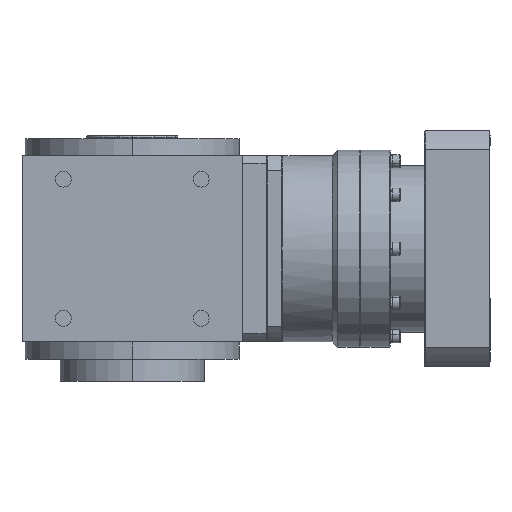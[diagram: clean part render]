
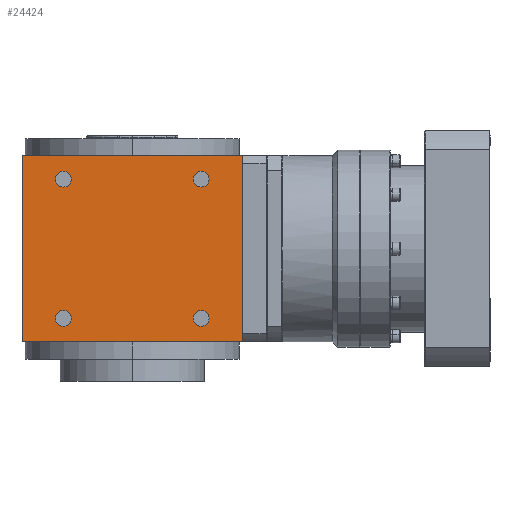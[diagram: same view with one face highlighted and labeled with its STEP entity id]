
A CAD part, left-side view. The second image highlights one B-rep face of the part: STEP entity #24424.
In plain terms, the highlighted planar face has unit normal (-1, 0, 0).
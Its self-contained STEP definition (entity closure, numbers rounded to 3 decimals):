
#67 = CARTESIAN_POINT ( 'NONE',  ( -84., 0., 71. ) ) ;
#198 = VERTEX_POINT ( 'NONE', #2103 ) ;
#588 = VERTEX_POINT ( 'NONE', #18782 ) ;
#615 = VECTOR ( 'NONE', #28640, 1000. ) ;
#651 = EDGE_CURVE ( 'NONE', #21203, #588, #8654, .T. ) ;
#945 = DIRECTION ( 'NONE',  ( 0., -1., 0. ) ) ;
#1089 = EDGE_LOOP ( 'NONE', ( #25535, #12055, #31687, #20256 ) ) ;
#1163 = FACE_BOUND ( 'NONE', #6752, .T. ) ;
#1295 = VERTEX_POINT ( 'NONE', #18134 ) ;
#1450 = EDGE_CURVE ( 'NONE', #588, #21203, #6291, .T. ) ;
#1514 = DIRECTION ( 'NONE',  ( 1., 0., 0. ) ) ;
#1690 = LINE ( 'NONE', #27966, #35816 ) ;
#2103 = CARTESIAN_POINT ( 'NONE',  ( -84., 58.5, -53. ) ) ;
#2819 = CARTESIAN_POINT ( 'NONE',  ( -84., 52.5, -53. ) ) ;
#3625 = FACE_BOUND ( 'NONE', #24114, .T. ) ;
#3656 = EDGE_CURVE ( 'NONE', #22876, #7491, #9346, .T. ) ;
#3704 = ORIENTED_EDGE ( 'NONE', *, *, #35686, .T. ) ;
#4327 = EDGE_LOOP ( 'NONE', ( #28812, #9390 ) ) ;
#5131 = EDGE_CURVE ( 'NONE', #5161, #36134, #1690, .T. ) ;
#5161 = VERTEX_POINT ( 'NONE', #18984 ) ;
#5561 = VERTEX_POINT ( 'NONE', #16308 ) ;
#6291 = CIRCLE ( 'NONE', #21905, 6. ) ;
#6300 = EDGE_LOOP ( 'NONE', ( #28891, #15328 ) ) ;
#6622 = DIRECTION ( 'NONE',  ( -1., 0., 0. ) ) ;
#6734 = EDGE_CURVE ( 'NONE', #5561, #1295, #20444, .T. ) ;
#6752 = EDGE_LOOP ( 'NONE', ( #15587, #32223 ) ) ;
#7491 = VERTEX_POINT ( 'NONE', #28987 ) ;
#7595 = DIRECTION ( 'NONE',  ( 1., 0., 0. ) ) ;
#8370 = LINE ( 'NONE', #11367, #615 ) ;
#8654 = CIRCLE ( 'NONE', #11638, 6. ) ;
#8850 = DIRECTION ( 'NONE',  ( 0., 0., 1. ) ) ;
#9052 = CARTESIAN_POINT ( 'NONE',  ( -84., 46.5, -53. ) ) ;
#9346 = CIRCLE ( 'NONE', #12344, 6. ) ;
#9390 = ORIENTED_EDGE ( 'NONE', *, *, #1450, .T. ) ;
#10054 = VERTEX_POINT ( 'NONE', #9052 ) ;
#10170 = CARTESIAN_POINT ( 'NONE',  ( -84., 52.5, 53. ) ) ;
#10173 = VERTEX_POINT ( 'NONE', #30053 ) ;
#10289 = CARTESIAN_POINT ( 'NONE',  ( -84., 52.5, 53. ) ) ;
#10685 = DIRECTION ( 'NONE',  ( 0., -1., 0. ) ) ;
#10765 = CIRCLE ( 'NONE', #16191, 6. ) ;
#11126 = CARTESIAN_POINT ( 'NONE',  ( -84., -84., -71. ) ) ;
#11367 = CARTESIAN_POINT ( 'NONE',  ( -84., 84., -71. ) ) ;
#11638 = AXIS2_PLACEMENT_3D ( 'NONE', #36394, #24226, #10685 ) ;
#12055 = ORIENTED_EDGE ( 'NONE', *, *, #12533, .F. ) ;
#12344 = AXIS2_PLACEMENT_3D ( 'NONE', #15817, #1514, #945 ) ;
#12533 = EDGE_CURVE ( 'NONE', #25340, #10173, #19969, .T. ) ;
#12559 = AXIS2_PLACEMENT_3D ( 'NONE', #10289, #33375, #27203 ) ;
#12618 = FACE_OUTER_BOUND ( 'NONE', #1089, .T. ) ;
#15106 = FACE_BOUND ( 'NONE', #4327, .T. ) ;
#15328 = ORIENTED_EDGE ( 'NONE', *, *, #3656, .T. ) ;
#15587 = ORIENTED_EDGE ( 'NONE', *, *, #22755, .T. ) ;
#15817 = CARTESIAN_POINT ( 'NONE',  ( -84., -52.5, 53. ) ) ;
#16028 = DIRECTION ( 'NONE',  ( 0., -1., 0. ) ) ;
#16032 = CARTESIAN_POINT ( 'NONE',  ( -84., -58.5, -53. ) ) ;
#16191 = AXIS2_PLACEMENT_3D ( 'NONE', #19470, #16845, #30901 ) ;
#16308 = CARTESIAN_POINT ( 'NONE',  ( -84., 58.5, 53. ) ) ;
#16521 = VECTOR ( 'NONE', #31782, 1000. ) ;
#16845 = DIRECTION ( 'NONE',  ( 1., 0., 0. ) ) ;
#18094 = DIRECTION ( 'NONE',  ( 0., 0., 1. ) ) ;
#18134 = CARTESIAN_POINT ( 'NONE',  ( -84., 46.5, 53. ) ) ;
#18782 = CARTESIAN_POINT ( 'NONE',  ( -84., -46.5, -53. ) ) ;
#18834 = DIRECTION ( 'NONE',  ( 1., 0., 0. ) ) ;
#18873 = CIRCLE ( 'NONE', #27830, 6. ) ;
#18984 = CARTESIAN_POINT ( 'NONE',  ( -84., 84., -71. ) ) ;
#19424 = EDGE_CURVE ( 'NONE', #5161, #25340, #8370, .T. ) ;
#19470 = CARTESIAN_POINT ( 'NONE',  ( -84., 52.5, -53. ) ) ;
#19558 = CARTESIAN_POINT ( 'NONE',  ( -84., -46.5, 53. ) ) ;
#19721 = DIRECTION ( 'NONE',  ( 1., 0., 0. ) ) ;
#19969 = LINE ( 'NONE', #67, #16521 ) ;
#20057 = VECTOR ( 'NONE', #8850, 1000. ) ;
#20086 = DIRECTION ( 'NONE',  ( 0., -1., 0. ) ) ;
#20256 = ORIENTED_EDGE ( 'NONE', *, *, #5131, .T. ) ;
#20444 = CIRCLE ( 'NONE', #12559, 6. ) ;
#20598 = DIRECTION ( 'NONE',  ( 0., -1., 0. ) ) ;
#20889 = PLANE ( 'NONE',  #23819 ) ;
#20974 = CARTESIAN_POINT ( 'NONE',  ( -84., -52.5, 53. ) ) ;
#21203 = VERTEX_POINT ( 'NONE', #16032 ) ;
#21905 = AXIS2_PLACEMENT_3D ( 'NONE', #36131, #7595, #29929 ) ;
#22755 = EDGE_CURVE ( 'NONE', #1295, #5561, #18873, .T. ) ;
#22876 = VERTEX_POINT ( 'NONE', #19558 ) ;
#23111 = CARTESIAN_POINT ( 'NONE',  ( -84., -84., -71. ) ) ;
#23819 = AXIS2_PLACEMENT_3D ( 'NONE', #24086, #6622, #18094 ) ;
#24086 = CARTESIAN_POINT ( 'NONE',  ( -84., 84., -71. ) ) ;
#24114 = EDGE_LOOP ( 'NONE', ( #29920, #3704 ) ) ;
#24226 = DIRECTION ( 'NONE',  ( 1., 0., 0. ) ) ;
#24424 = ADVANCED_FACE ( 'NONE', ( #26910, #3625, #15106, #1163, #12618 ), #20889, .T. ) ;
#25340 = VERTEX_POINT ( 'NONE', #34245 ) ;
#25535 = ORIENTED_EDGE ( 'NONE', *, *, #30895, .T. ) ;
#26910 = FACE_BOUND ( 'NONE', #6300, .T. ) ;
#27203 = DIRECTION ( 'NONE',  ( 0., -1., 0. ) ) ;
#27830 = AXIS2_PLACEMENT_3D ( 'NONE', #10170, #18834, #16028 ) ;
#27966 = CARTESIAN_POINT ( 'NONE',  ( -84., 84., -71. ) ) ;
#28139 = AXIS2_PLACEMENT_3D ( 'NONE', #20974, #32240, #20598 ) ;
#28398 = AXIS2_PLACEMENT_3D ( 'NONE', #2819, #19721, #20086 ) ;
#28640 = DIRECTION ( 'NONE',  ( 0., 0., 1. ) ) ;
#28812 = ORIENTED_EDGE ( 'NONE', *, *, #651, .T. ) ;
#28891 = ORIENTED_EDGE ( 'NONE', *, *, #35384, .T. ) ;
#28987 = CARTESIAN_POINT ( 'NONE',  ( -84., -58.5, 53. ) ) ;
#29919 = CIRCLE ( 'NONE', #28139, 6. ) ;
#29920 = ORIENTED_EDGE ( 'NONE', *, *, #31339, .T. ) ;
#29929 = DIRECTION ( 'NONE',  ( 0., -1., 0. ) ) ;
#30053 = CARTESIAN_POINT ( 'NONE',  ( -84., -84., 71. ) ) ;
#30895 = EDGE_CURVE ( 'NONE', #36134, #10173, #34391, .T. ) ;
#30901 = DIRECTION ( 'NONE',  ( 0., -1., 0. ) ) ;
#31339 = EDGE_CURVE ( 'NONE', #10054, #198, #33782, .T. ) ;
#31687 = ORIENTED_EDGE ( 'NONE', *, *, #19424, .F. ) ;
#31782 = DIRECTION ( 'NONE',  ( 0., -1., 0. ) ) ;
#32223 = ORIENTED_EDGE ( 'NONE', *, *, #6734, .T. ) ;
#32240 = DIRECTION ( 'NONE',  ( 1., 0., 0. ) ) ;
#33375 = DIRECTION ( 'NONE',  ( 1., 0., 0. ) ) ;
#33605 = DIRECTION ( 'NONE',  ( 0., -1., 0. ) ) ;
#33782 = CIRCLE ( 'NONE', #28398, 6. ) ;
#34245 = CARTESIAN_POINT ( 'NONE',  ( -84., 84., 71. ) ) ;
#34391 = LINE ( 'NONE', #11126, #20057 ) ;
#35384 = EDGE_CURVE ( 'NONE', #7491, #22876, #29919, .T. ) ;
#35686 = EDGE_CURVE ( 'NONE', #198, #10054, #10765, .T. ) ;
#35816 = VECTOR ( 'NONE', #33605, 1000. ) ;
#36131 = CARTESIAN_POINT ( 'NONE',  ( -84., -52.5, -53. ) ) ;
#36134 = VERTEX_POINT ( 'NONE', #23111 ) ;
#36394 = CARTESIAN_POINT ( 'NONE',  ( -84., -52.5, -53. ) ) ;
